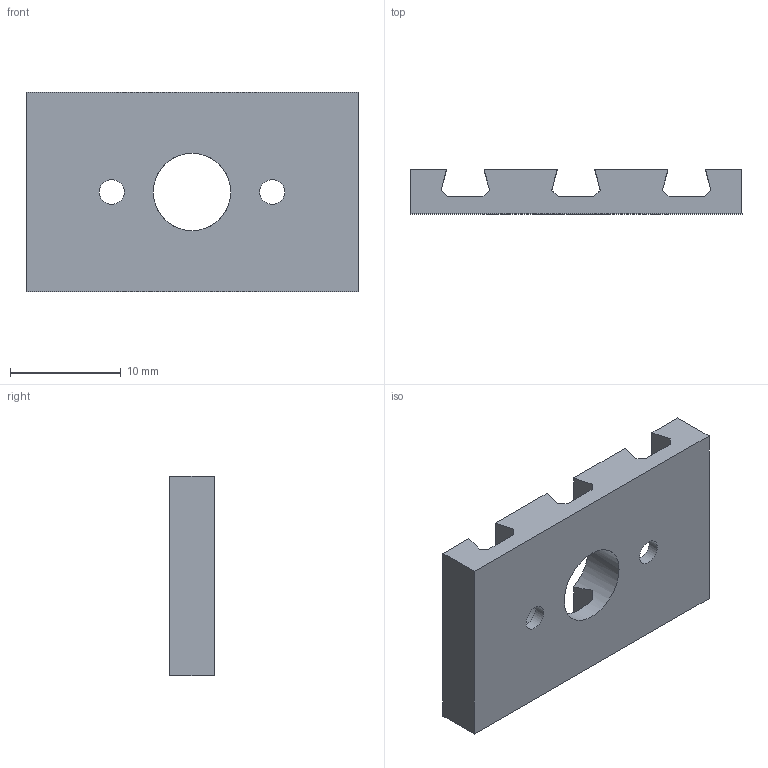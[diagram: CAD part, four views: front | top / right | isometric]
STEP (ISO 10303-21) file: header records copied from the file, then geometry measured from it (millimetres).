
FILE_DESCRIPTION(/* description */ (''),/* implementation_level */ '2;1');
FILE_NAME(/* name */ 'C:/Users/priba/Downloads/mrm-ps-1109hbHornCoupler3x.step',/* time_stamp */ '2022-04-05T09:22:47+02:00',/* author */ (''),/* organization */ (''),/* preprocessor_version */ 'ST-DEVELOPER v18.1',/* originating_system */ 'Autodesk Translation Framework v10.13.0.1454',/* authorisation */ '');
FILE_SCHEMA (('AUTOMOTIVE_DESIGN { 1 0 10303 214 3 1 1 }'));
Length unit declared in the file: millimetre
Products named in the file (1): mrm-ps-1109hbHornCoupler3x
Bounding box: 30 x 4 x 18 mm (x, y, z)
Volume: 1458.4 mm3; surface area: 1691.6 mm2
Topology: 1 solids, 1 shells, 40 faces, 117 edges, 78 vertices
Faces by surface type: plane 35, cylinder 5
Full cylindrical faces by diameter (mm): 2.25 x2, 5 x2, 7 x1
Entity records: 1369 total; most frequent: CARTESIAN_POINT 236, ORIENTED_EDGE 234, DIRECTION 233, EDGE_CURVE 117, LINE 83, VECTOR 83, VERTEX_POINT 78, AXIS2_PLACEMENT_3D 75
